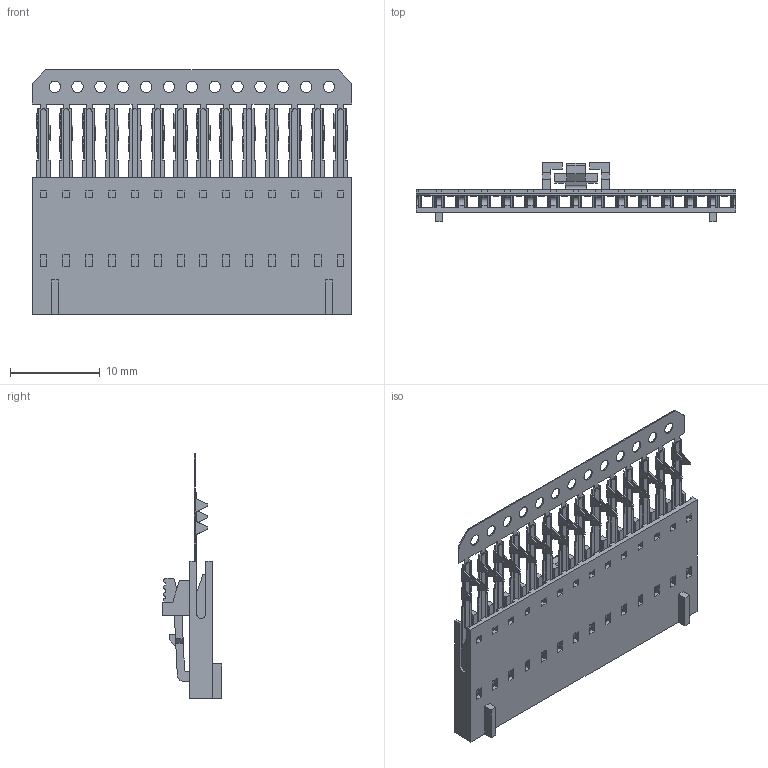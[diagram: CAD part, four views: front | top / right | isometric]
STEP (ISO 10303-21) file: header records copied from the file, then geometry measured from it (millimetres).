
FILE_DESCRIPTION((''),'2;1');
FILE_NAME('015388140','2016-11-30T',('rlalsangi'),(''),'PRO/ENGINEER BY PARAMETRIC TECHNOLOGY CORPORATION, 2012310','PRO/ENGINEER BY PARAMETRIC TECHNOLOGY CORPORATION, 2012310','');
FILE_SCHEMA(('CONFIG_CONTROL_DESIGN'));
Length unit declared in the file: inch
Products named in the file (1): 015388140
Bounding box: 35.53 x 6.58 x 27.18 mm (x, y, z)
Volume: 869.6 mm3; surface area: 3939.8 mm2
Topology: 1 solids, 1 shells, 1119 faces, 3319 edges, 2165 vertices
Faces by surface type: plane 983, cylinder 136
Entity records: 37063 total; most frequent: CARTESIAN_POINT 6677, ORIENTED_EDGE 6606, DIRECTION 5777, EDGE_CURVE 3303, VECTOR 3047, LINE 3047, VERTEX_POINT 2136, AXIS2_PLACEMENT_3D 1365
